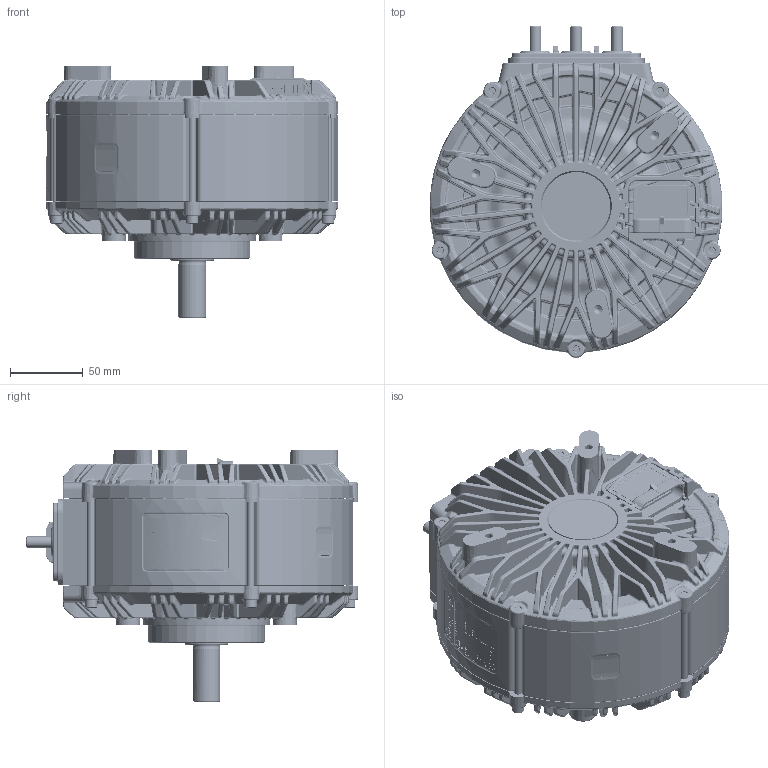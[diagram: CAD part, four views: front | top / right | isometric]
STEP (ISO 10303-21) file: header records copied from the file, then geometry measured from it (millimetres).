
FILE_DESCRIPTION (( 'STEP AP214' ), '1' );
FILE_NAME ('2019-002-001.STEP', '2024-01-03T07:49:28', ( '' ), ( '' ), 'SwSTEP 2.0', 'SolidWorks 2021', '' );
FILE_SCHEMA (( 'AUTOMOTIVE_DESIGN' ));
Length unit declared in the file: millimetre
Products named in the file (56): 9000-101-001; 1119-040-005_Defeatured (External Only); 1319-000-109; 1400-000-101; 1119-000-101; 921A-107-000_Installed length; 1319-000-101; 1219-040-006; 1219-040-001; 1119-000-004; 9200-102-001; 1319-000-103; 1119-000-103; 1400-000-002; 1119-000-001_DE-FEATURED FOR EXTERNAL; 1400-000-104; Copy of SOLID REP^1319-000-109; 1019-040-002_Defeatured (External Only); 940B-001-100; 1400-000-102; 1400-000-100; 1219-040-004_Blank; 9000-104-000; 1119-000-100; 1119-000-003; 9500-102-000; 9200-100-001; 1119-000-106; 1400-000-003; 1219-040-003_DEFAULT; 1219-040-007_DE-FEATURED; 913A-008-020; 2019-100-106; 1119-000-102; 910B-005-080_DIN 912 M5 x 80; 9500-110-000; 915A-005-008; 1200-000-102; 910B-005-016_M5X16mm; 1400-000-001_Defeatured (Ext. Only)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
Assembly tree (55 placements, depth 8):
  9000-101-001
  9200-102-001
  1119-000-103
  1400-000-104
  9000-104-000
Bounding box: 200.78 x 227.78 x 173.54 mm (x, y, z)
Volume: 1240183.2 mm3; surface area: 506681.1 mm2
Topology: 68 solids, 68 shells, 11541 faces, 27426 edges, 16094 vertices
Faces by surface type: bspline 4453, cylinder 2359, plane 2326, torus 1346, cone 688, sphere 369
Full cylindrical faces by diameter (mm): 3.3 x1, 4 x2, 4.2 x11, 5 x23, 5.5 x11, 6 x6, 6.8 x4, 7.7 x1, 7.8 x1, 8 x9, 8.5 x11, 15.3 x3, 18.6 x1, 19 x1, 24 x1, 24.4 x1, 28 x2, 28.2 x1, 28.4 x1, 29.6 x1, 30 x3, 35 x1, 40 x1, 45 x1, 47 x1, 49.4 x1, 50 x4, 59.75 x4, 62 x2, 68 x1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
Entity records: 449105 total; most frequent: CARTESIAN_POINT 222350, ORIENTED_EDGE 52128, DIRECTION 39033, EDGE_CURVE 26064, AXIS2_PLACEMENT_3D 16546, VERTEX_POINT 15513, EDGE_LOOP 11817, FACE_OUTER_BOUND 11363
